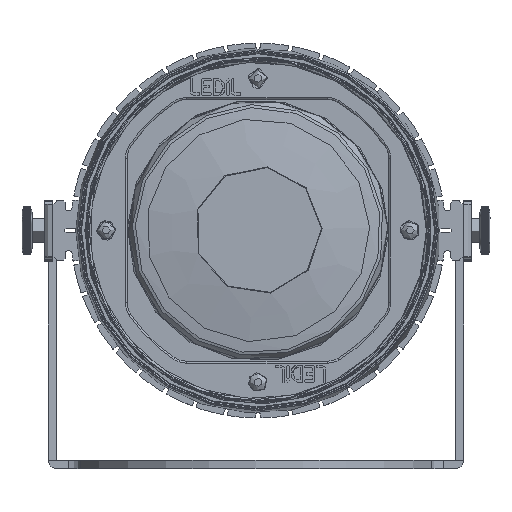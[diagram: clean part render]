
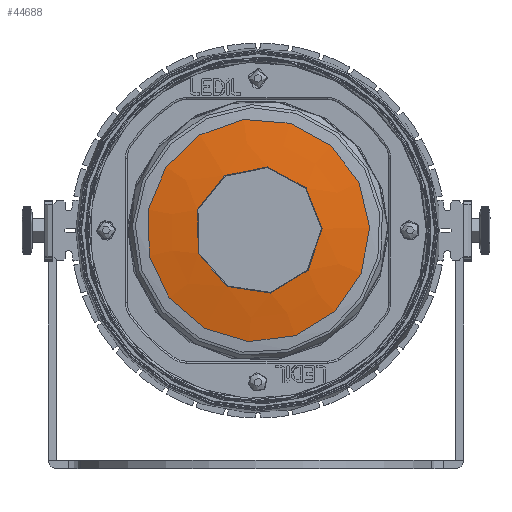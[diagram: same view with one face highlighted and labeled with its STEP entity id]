
A CAD part, top view. The second image highlights one B-rep face of the part: STEP entity #44688.
In plain terms, the highlighted conical face has half-angle 81.055 degrees and reference radius 15.731 mm.
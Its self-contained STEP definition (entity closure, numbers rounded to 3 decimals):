
#3110=CONICAL_SURFACE('',#48531,15.731,1.415);
#5637=LINE('',#83092,#8257);
#8257=VECTOR('',#58642,15.731);
#11310=FACE_OUTER_BOUND('',#13842,.T.);
#13842=EDGE_LOOP('',(#40274,#40275,#40276,#40277));
#15002=CIRCLE('',#47843,27.569);
#15456=CIRCLE('',#48532,15.808);
#19518=VERTEX_POINT('',#79984);
#19896=VERTEX_POINT('',#83091);
#26048=EDGE_CURVE('',#19518,#19518,#15002,.T.);
#26715=EDGE_CURVE('',#19518,#19896,#5637,.T.);
#26716=EDGE_CURVE('',#19896,#19896,#15456,.T.);
#40274=ORIENTED_EDGE('',*,*,#26048,.F.);
#40275=ORIENTED_EDGE('',*,*,#26715,.T.);
#40276=ORIENTED_EDGE('',*,*,#26716,.T.);
#40277=ORIENTED_EDGE('',*,*,#26715,.F.);
#44688=ADVANCED_FACE('',(#11310),#3110,.T.);
#47843=AXIS2_PLACEMENT_3D('',#79986,#57099,#57100);
#48531=AXIS2_PLACEMENT_3D('',#83090,#58640,#58641);
#48532=AXIS2_PLACEMENT_3D('',#83093,#58643,#58644);
#57099=DIRECTION('center_axis',(0.,0.,-1.));
#57100=DIRECTION('ref_axis',(1.,0.,0.));
#58640=DIRECTION('center_axis',(0.,0.,-1.));
#58641=DIRECTION('ref_axis',(0.479,0.878,0.));
#58642=DIRECTION('',(0.474,0.867,0.155));
#58643=DIRECTION('center_axis',(0.,0.,-1.));
#58644=DIRECTION('ref_axis',(1.,0.,0.));
#79984=CARTESIAN_POINT('',(-13.218,-24.195,18.469));
#79986=CARTESIAN_POINT('Origin',(0.,0.,
18.469));
#83090=CARTESIAN_POINT('Origin',(0.,0.,
20.333));
#83091=CARTESIAN_POINT('',(-7.579,-13.873,20.321));
#83092=CARTESIAN_POINT('',(-7.542,-13.805,20.333));
#83093=CARTESIAN_POINT('Origin',(0.,0.,
20.321));
